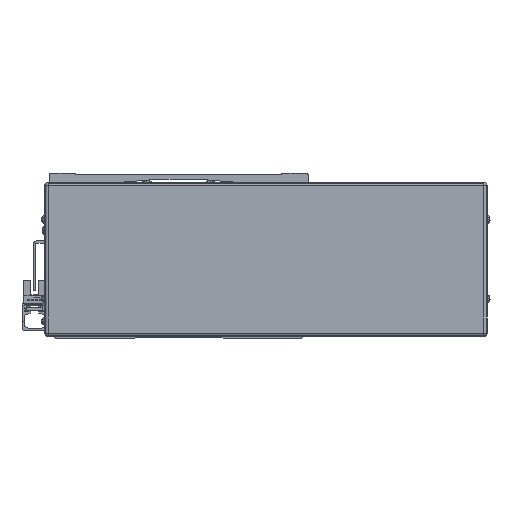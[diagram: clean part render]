
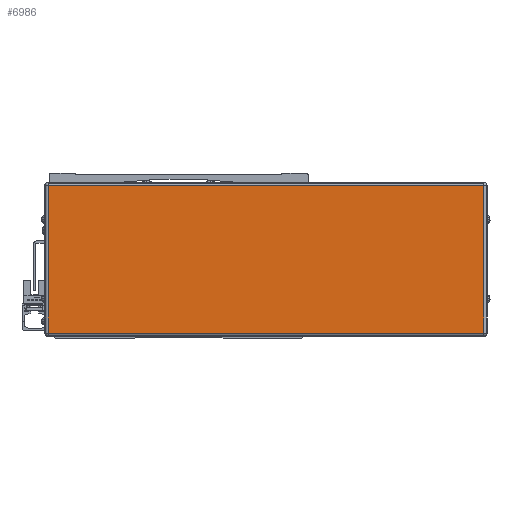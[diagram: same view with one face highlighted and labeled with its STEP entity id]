
A CAD part, front view. The second image highlights one B-rep face of the part: STEP entity #6986.
In plain terms, the highlighted planar face has unit normal (0, -1, 0).
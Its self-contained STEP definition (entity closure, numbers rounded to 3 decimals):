
#6986=ADVANCED_FACE('',(#14539),#14540,.T.);
#14539=FACE_OUTER_BOUND('',#24690,.T.);
#14540=PLANE('',#24691);
#24690=EDGE_LOOP('',(#45533,#45534,#45535,#45536));
#24691=AXIS2_PLACEMENT_3D('',#45537,#45538,#45539);
#45533=ORIENTED_EDGE('',*,*,#58789,.F.);
#45534=ORIENTED_EDGE('',*,*,#59090,.F.);
#45535=ORIENTED_EDGE('',*,*,#58450,.F.);
#45536=ORIENTED_EDGE('',*,*,#51203,.F.);
#45537=CARTESIAN_POINT('',(-545.,-122.778,-2.));
#45538=DIRECTION('',(0.,-1.0,0.));
#45539=DIRECTION('',(1.0,0.,0.));
#51203=EDGE_CURVE('',#61038,#61040,#61041,.T.);
#58450=EDGE_CURVE('',#61040,#61396,#72096,.T.);
#58789=EDGE_CURVE('',#71730,#61038,#72486,.T.);
#59090=EDGE_CURVE('',#61396,#71730,#72831,.T.);
#61038=VERTEX_POINT('',#75249);
#61040=VERTEX_POINT('',#75251);
#61041=LINE('',#75252,#75253);
#61396=VERTEX_POINT('',#75792);
#71730=VERTEX_POINT('',#91338);
#72096=LINE('',#91866,#91867);
#72486=LINE('',#92463,#92464);
#72831=LINE('',#92967,#92968);
#75249=CARTESIAN_POINT('',(-407.9,-122.778,44.5));
#75251=CARTESIAN_POINT('',(-407.9,-122.778,-48.5));
#75252=CARTESIAN_POINT('',(-407.9,-122.778,-2.));
#75253=VECTOR('',#94877,10.0);
#75792=CARTESIAN_POINT('',(-682.1,-122.778,-48.5));
#91338=CARTESIAN_POINT('',(-682.1,-122.778,44.5));
#91866=CARTESIAN_POINT('',(-545.,-122.778,-48.5));
#91867=VECTOR('',#103706,10.0);
#92463=CARTESIAN_POINT('',(-545.,-122.778,44.5));
#92464=VECTOR('',#104003,10.0);
#92967=CARTESIAN_POINT('',(-682.1,-122.778,-2.));
#92968=VECTOR('',#104269,10.0);
#94877=DIRECTION('',(0.,0.,-1.0));
#103706=DIRECTION('',(-1.0,0.,0.));
#104003=DIRECTION('',(1.0,0.,0.));
#104269=DIRECTION('',(0.,0.,1.0));
